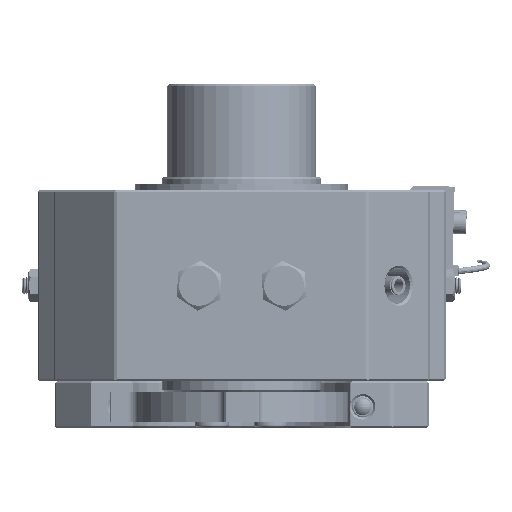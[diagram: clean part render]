
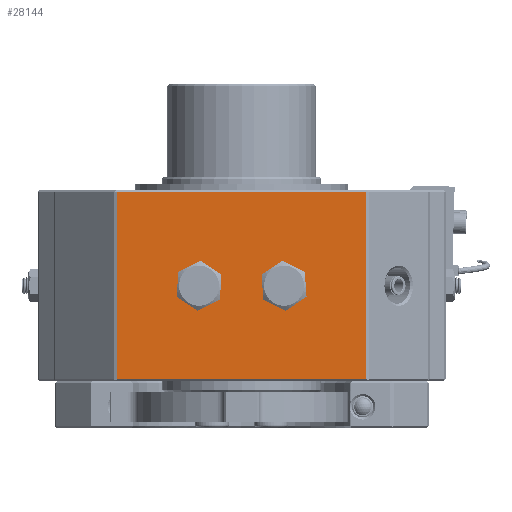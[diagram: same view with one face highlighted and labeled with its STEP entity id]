
A CAD part, left-side view. The second image highlights one B-rep face of the part: STEP entity #28144.
In plain terms, the highlighted planar face has unit normal (-1, 0, 0).
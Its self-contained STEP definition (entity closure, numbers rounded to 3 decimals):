
#18854=CARTESIAN_POINT('',(-82.5,-13.5,-95.0));
#18855=VERTEX_POINT('',#18854);
#18856=CARTESIAN_POINT('',(-82.5,-20.0,-95.0));
#18857=DIRECTION('',(1.0,0.0,0.0));
#18858=DIRECTION('',(0.0,-1.0,0.0));
#18859=AXIS2_PLACEMENT_3D('',#18856,#18857,#18858);
#18860=CIRCLE('',#18859,6.5);
#18861=EDGE_CURVE('',#18855,#18855,#18860,.T.);
#18874=CARTESIAN_POINT('',(-82.5,26.5,-95.0));
#18875=VERTEX_POINT('',#18874);
#18876=CARTESIAN_POINT('',(-82.5,20.0,-95.0));
#18877=DIRECTION('',(1.0,0.0,0.0));
#18878=DIRECTION('',(0.0,-1.0,0.0));
#18879=AXIS2_PLACEMENT_3D('',#18876,#18877,#18878);
#18880=CIRCLE('',#18879,6.5);
#18881=EDGE_CURVE('',#18875,#18875,#18880,.T.);
#27574=CARTESIAN_POINT('',(-82.5,-58.5,-51.));
#27575=VERTEX_POINT('',#27574);
#27582=CARTESIAN_POINT('',(-82.5,-58.5,-139.0));
#27583=VERTEX_POINT('',#27582);
#27584=CARTESIAN_POINT('',(-82.5,-58.5,-51.));
#27585=DIRECTION('',(0.0,0.0,-1.0));
#27586=VECTOR('',#27585,88.0);
#27587=LINE('',#27584,#27586);
#27588=EDGE_CURVE('',#27575,#27583,#27587,.T.);
#27629=CARTESIAN_POINT('',(-82.5,58.5,-139.0));
#27630=VERTEX_POINT('',#27629);
#27631=CARTESIAN_POINT('',(-82.5,-58.5,-139.0));
#27632=DIRECTION('',(0.0,1.0,0.0));
#27633=VECTOR('',#27632,117.);
#27634=LINE('',#27631,#27633);
#27635=EDGE_CURVE('',#27583,#27630,#27634,.T.);
#27665=CARTESIAN_POINT('',(-82.5,58.5,-51.));
#27666=VERTEX_POINT('',#27665);
#27667=CARTESIAN_POINT('',(-82.5,58.5,-139.0));
#27668=DIRECTION('',(0.0,0.0,1.0));
#27669=VECTOR('',#27668,88.0);
#27670=LINE('',#27667,#27669);
#27671=EDGE_CURVE('',#27630,#27666,#27670,.T.);
#27716=CARTESIAN_POINT('',(-82.5,58.5,-51.));
#27717=DIRECTION('',(0.0,-1.0,0.0));
#27718=VECTOR('',#27717,117.);
#27719=LINE('',#27716,#27718);
#27720=EDGE_CURVE('',#27666,#27575,#27719,.T.);
#28127=CARTESIAN_POINT('',(-82.5,-96.,-50.0));
#28128=DIRECTION('',(-1.0,0.0,0.0));
#28129=DIRECTION('',(0.0,0.0,1.0));
#28130=AXIS2_PLACEMENT_3D('',#28127,#28128,#28129);
#28131=PLANE('',#28130);
#28132=ORIENTED_EDGE('',*,*,#27588,.F.);
#28133=ORIENTED_EDGE('',*,*,#27720,.F.);
#28134=ORIENTED_EDGE('',*,*,#27671,.F.);
#28135=ORIENTED_EDGE('',*,*,#27635,.F.);
#28136=EDGE_LOOP('',(#28132,#28133,#28134,#28135));
#28137=FACE_OUTER_BOUND('',#28136,.T.);
#28138=ORIENTED_EDGE('',*,*,#18881,.T.);
#28139=EDGE_LOOP('',(#28138));
#28140=FACE_BOUND('',#28139,.T.);
#28141=ORIENTED_EDGE('',*,*,#18861,.T.);
#28142=EDGE_LOOP('',(#28141));
#28143=FACE_BOUND('',#28142,.T.);
#28144=ADVANCED_FACE('',(#28137,#28140,#28143),#28131,.T.);
